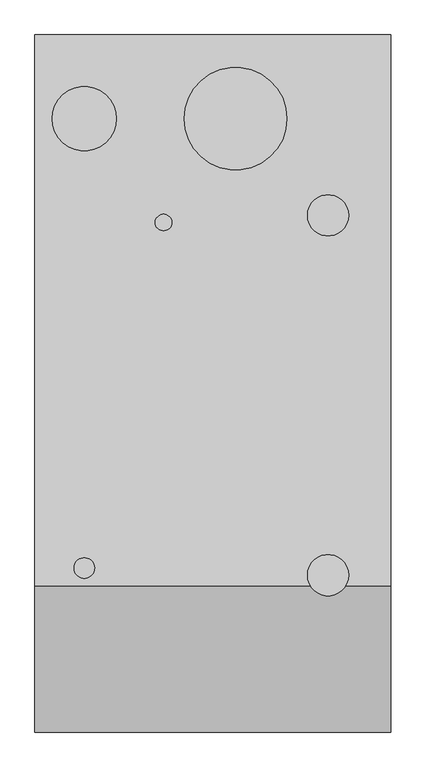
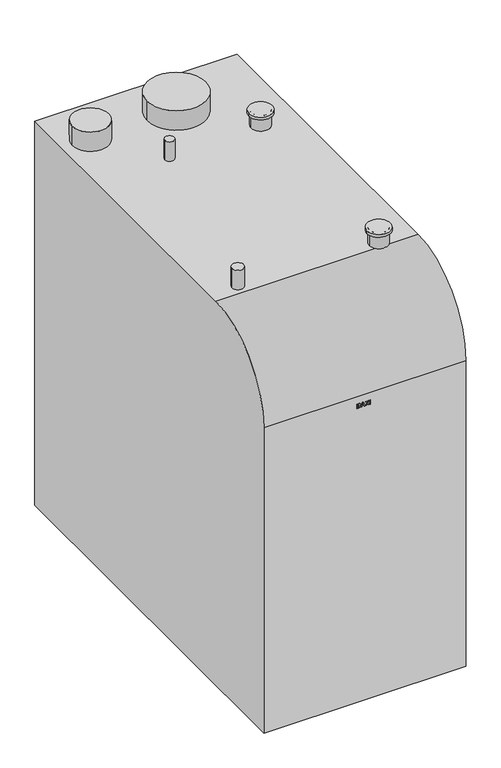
"""IFC4 building model written with IfcOpenShell, lengths in millimetres: proxy geometry, BAXI_ГазовыйКотел_Power_HT : BAXI_Газовый котел_Power_HT_1.320."""

from ifc_helpers import new_model, si_unit, point, frame, frame_2d, origin, place, context, project, spatial, polyline, circle_curve, trimmed, segment, composite_curve, outline, extrude, source, transform, mapped, element, save


def mechanical_equipment_bfaf0c7a(model_context):
    return source(origin(), model_context, "Body", "SweptSolid", [
        extrude(outline(polyline([(1077.0261683, -27.1214036), (1061.7222773, -27.1214036), (1061.7222773, -21.8910559), (1061.8247588, -18.1485865), (1062.5478221, -16.0666956), (1064.1154081, -14.7344372), (1066.1365693, -14.2467016), (1068.4329121, -14.9261154), (1069.8145134, -16.8694667), (1071.1695454, -15.307574), (1073.1508527, -14.7325394), (1074.9518686, -15.2145816), (1076.2385797, -16.4196871), (1076.874344, -18.0593897), (1077.0261683, -20.8396725), (1077.0261683, -27.1214036)]), holes=[polyline([(1074.3540604, -24.2063767), (1074.3540604, -22.2554343), (1071.0025386, -19.5150054), (1070.9531957, -21.9821505), (1070.9531957, -24.2063767), (1074.3540604, -24.2063767)]), polyline([(1068.2810878, -24.2063767), (1068.2810878, -21.5152907), (1064.4854799, -18.8393872), (1064.3943853, -21.1243431), (1064.3943853, -24.2063767), (1068.2810878, -24.2063767)])]), frame((0.0, -1357.0, 0.0), z_axis=(0.0, 1.0, 0.0), x_axis=(0.0, 0.0, 1.0)), (0.0, 0.0, 1.0), 5.0),
        extrude(outline(polyline([(1061.7222773, 1.0571894), (1077.0261683, -4.5830839), (1077.0261683, -7.6878912), (1061.7222773, -13.275026), (1061.7222773, -10.1702188), (1065.123142, -8.9859891), (1065.123142, -3.2052783), (1061.7222773, -2.0058662), (1061.7222773, 1.0571894)]), holes=[polyline([(1067.79525, -4.1389978), (1067.79525, -8.0522696), (1073.3823848, -6.1089183), (1067.79525, -4.1389978)])]), frame((0.0, -1357.0, 0.0), z_axis=(0.0, 1.0, 0.0), x_axis=(0.0, 0.0, 1.0)), (0.0, 0.0, 1.0), 5.0),
        extrude(outline(polyline([(1061.7222773, 1.1786488), (1061.7222773, 4.5871047), (1067.127223, 8.1018376), (1061.7222773, 11.6165705), (1061.7222773, 15.0250264), (1069.7461924, 9.8060656), (1077.0261683, 14.5391886), (1077.0261683, 11.1307327), (1072.3689575, 8.1018376), (1077.0261683, 5.0729425), (1077.0261683, 1.6644866), (1069.7461924, 6.3976097), (1061.7222773, 1.1786488)])), frame((0.0, -1357.0, 0.0), z_axis=(0.0, 1.0, 0.0), x_axis=(0.0, 0.0, 1.0)), (0.0, 0.0, 1.0), 5.0),
        extrude(outline(polyline([(16.6039993, -1352.0), (19.5190261, -1352.0), (19.5190261, -1357.0), (16.6039993, -1357.0), (16.6039993, -1352.0)])), frame((0.0, 0.0, 1061.7222773), z_axis=(0.0, 0.0, 1.0), x_axis=(1.0, 0.0, 0.0)), (0.0, 0.0, 1.0), 15.303891),
        extrude(outline(composite_curve([segment(trimmed(circle_curve(frame_2d((224.0, -351.0)), 40.0), [point((184.0, -351.0))], [point((264.0, -351.0))], False, "CARTESIAN"), True, "CONTINUOUS"), segment(trimmed(circle_curve(frame_2d((224.0, -351.0)), 40.0), [point((264.0, -351.0))], [point((184.0, -351.0))], False, "CARTESIAN"), True, "CONTINUOUS")], self_intersect=False)), frame((0.0, 0.0, 1435.0), z_axis=(0.0, 0.0, 1.0), x_axis=(1.0, 0.0, 0.0)), (0.0, 0.0, 1.0), 10.0),
        extrude(outline(composite_curve([segment(trimmed(circle_curve(frame_2d((224.0, -1051.0)), 40.0), [point((184.0, -1051.0))], [point((264.0, -1051.0))], False, "CARTESIAN"), True, "CONTINUOUS"), segment(trimmed(circle_curve(frame_2d((224.0, -1051.0)), 40.0), [point((264.0, -1051.0))], [point((184.0, -1051.0))], False, "CARTESIAN"), True, "CONTINUOUS")], self_intersect=False)), frame((0.0, 0.0, 1435.0), z_axis=(0.0, 0.0, 1.0), x_axis=(1.0, 0.0, 0.0)), (0.0, 0.0, 1.0), 10.0),
        extrude(outline(composite_curve([segment(trimmed(circle_curve(frame_2d((44.0, -163.0)), 100.0), [point((-56.0, -163.0))], [point((144.0, -163.0))], False, "CARTESIAN"), True, "CONTINUOUS"), segment(trimmed(circle_curve(frame_2d((44.0, -163.0)), 100.0), [point((144.0, -163.0))], [point((-56.0, -163.0))], False, "CARTESIAN"), True, "CONTINUOUS")], self_intersect=False)), frame((0.0, 0.0, 1389.0), z_axis=(0.0, 0.0, 1.0), x_axis=(1.0, 0.0, 0.0)), (0.0, 0.0, 1.0), 70.0),
        extrude(outline(composite_curve([segment(trimmed(circle_curve(frame_2d((-96.0, -365.0)), 16.0), [point((-112.0, -365.0))], [point((-80.0, -365.0))], False, "CARTESIAN"), True, "CONTINUOUS"), segment(trimmed(circle_curve(frame_2d((-96.0, -365.0)), 16.0), [point((-80.0, -365.0))], [point((-112.0, -365.0))], False, "CARTESIAN"), True, "CONTINUOUS")], self_intersect=False)), frame((0.0, 0.0, 1389.0), z_axis=(0.0, 0.0, 1.0), x_axis=(1.0, 0.0, 0.0)), (0.0, 0.0, 1.0), 70.0),
        extrude(outline(composite_curve([segment(trimmed(circle_curve(frame_2d((-250.0, -1037.0)), 20.0), [point((-270.0, -1037.0))], [point((-230.0, -1037.0))], False, "CARTESIAN"), True, "CONTINUOUS"), segment(trimmed(circle_curve(frame_2d((-250.0, -1037.0)), 20.0), [point((-230.0, -1037.0))], [point((-270.0, -1037.0))], False, "CARTESIAN"), True, "CONTINUOUS")], self_intersect=False)), frame((0.0, 0.0, 1389.0), z_axis=(0.0, 0.0, 1.0), x_axis=(1.0, 0.0, 0.0)), (0.0, 0.0, 1.0), 70.0),
        extrude(outline(composite_curve([segment(trimmed(circle_curve(frame_2d((224.0, -1051.0)), 32.5), [point((191.5, -1051.0))], [point((256.5, -1051.0))], False, "CARTESIAN"), True, "CONTINUOUS"), segment(trimmed(circle_curve(frame_2d((224.0, -1051.0)), 32.5), [point((256.5, -1051.0))], [point((191.5, -1051.0))], False, "CARTESIAN"), True, "CONTINUOUS")], self_intersect=False)), frame((0.0, 0.0, 1389.0), z_axis=(0.0, 0.0, 1.0), x_axis=(1.0, 0.0, 0.0)), (0.0, 0.0, 1.0), 56.0),
        extrude(outline(composite_curve([segment(trimmed(circle_curve(frame_2d((224.0, -351.0)), 32.5), [point((191.5, -351.0))], [point((256.5, -351.0))], False, "CARTESIAN"), True, "CONTINUOUS"), segment(trimmed(circle_curve(frame_2d((224.0, -351.0)), 32.5), [point((256.5, -351.0))], [point((191.5, -351.0))], False, "CARTESIAN"), True, "CONTINUOUS")], self_intersect=False)), frame((0.0, 0.0, 1389.0), z_axis=(0.0, 0.0, 1.0), x_axis=(1.0, 0.0, 0.0)), (0.0, 0.0, 1.0), 56.0),
        extrude(outline(composite_curve([segment(trimmed(circle_curve(frame_2d((-250.0, -163.0)), 62.5), [point((-312.5, -163.0))], [point((-187.5, -163.0))], False, "CARTESIAN"), True, "CONTINUOUS"), segment(trimmed(circle_curve(frame_2d((-250.0, -163.0)), 62.5), [point((-187.5, -163.0))], [point((-312.5, -163.0))], False, "CARTESIAN"), True, "CONTINUOUS")], self_intersect=False)), frame((0.0, 0.0, 1389.0), z_axis=(0.0, 0.0, 1.0), x_axis=(1.0, 0.0, 0.0)), (0.0, 0.0, 1.0), 70.0),
        extrude(outline(composite_curve([segment(polyline([(0.0, 0.0), (-1357.0, 0.0), (-1357.0, 1103.9879617)]), True, "CONTINUOUS"), segment(trimmed(circle_curve(frame_2d((-1071.9879617, 1103.9879617)), 285.0120383), [point((-1357.0, 1103.9879617))], [point((-1071.9879617, 1389.0))], False, "CARTESIAN"), True, "CONTINUOUS"), segment(polyline([(-1071.9879617, 1389.0), (0.0, 1389.0), (0.0, 0.0)]), True, "CONTINUOUS")], self_intersect=False)), frame((-346.0, 0.0, 0.0), z_axis=(1.0, 0.0, 0.0), x_axis=(0.0, 1.0, 0.0)), (0.0, 0.0, 1.0), 692.0),
    ])


if __name__ == "__main__":
    model = new_model("IFC4")
    model_context = context("Model", 3, world=origin())
    ifc_project = project(units=[si_unit("LENGTHUNIT", "METRE", prefix="MILLI")], contexts=[model_context])
    site = spatial("IfcSite", under=ifc_project)
    building = spatial("IfcBuilding", under=site)
    placement = place(None, origin())
    mechanical_equipment_shape = mechanical_equipment_bfaf0c7a(model_context)
    element("IfcBuildingElementProxy", 1, Name="BAXI_ГазовыйКотел_Power_HT : BAXI_Газовый котел_Power_HT_1.320", ObjectType="BAXI_ГазовыйКотел_Power_HT : BAXI_Газовый котел_Power_HT_1.320", at=placement, inside=building, context=model_context, shape_type="MappedRepresentation", body=[
        mapped(mechanical_equipment_shape, transform((0.0, 0.0, 0.0), x_axis=(1.0, 0.0, 0.0), y_axis=(0.0, 1.0, 0.0), z_axis=(0.0, 0.0, 1.0))),
    ])
    save(model, "model.ifc")
